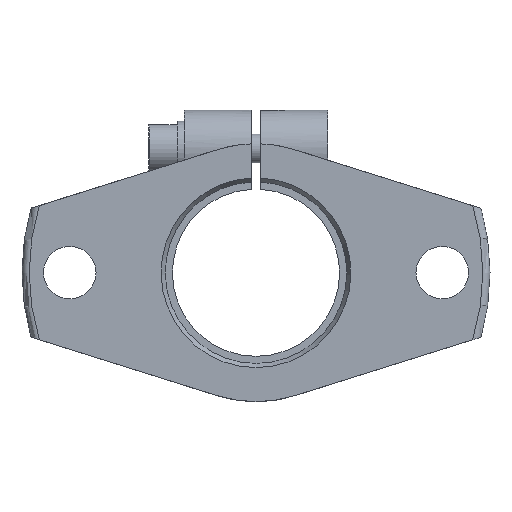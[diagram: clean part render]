
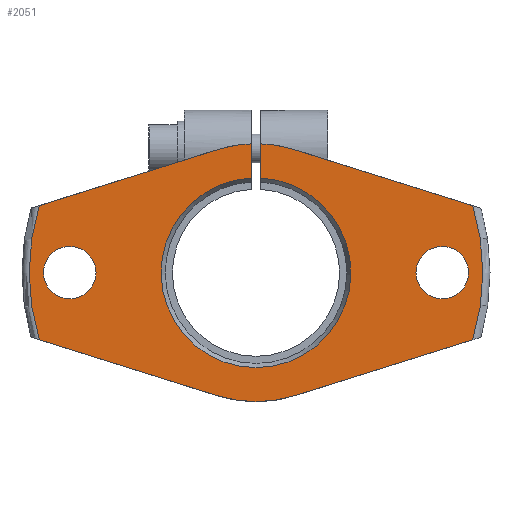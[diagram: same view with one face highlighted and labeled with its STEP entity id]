
A CAD part, left-side view. The second image highlights one B-rep face of the part: STEP entity #2051.
In plain terms, the highlighted planar face has unit normal (-1, 0, 0).
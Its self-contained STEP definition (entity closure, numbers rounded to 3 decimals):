
#481=CARTESIAN_POINT('',(0.0,-45.377,-14.043));
#482=VERTEX_POINT('',#481);
#522=CARTESIAN_POINT('',(0.0,-45.377,14.043));
#523=VERTEX_POINT('',#522);
#549=CARTESIAN_POINT('',(0.0,0.0,0.0));
#550=DIRECTION('',(1.0,0.0,0.0));
#551=DIRECTION('',(0.0,-1.0,0.0));
#552=AXIS2_PLACEMENT_3D('',#549,#550,#551);
#553=CIRCLE('',#552,47.5);
#554=EDGE_CURVE('',#523,#482,#553,.T.);
#634=CARTESIAN_POINT('',(0.0,-8.094,25.758));
#635=VERTEX_POINT('',#634);
#642=CARTESIAN_POINT('',(0.0,-8.094,25.758));
#643=DIRECTION('',(0.0,-0.954,-0.3));
#644=VECTOR('',#643,39.08);
#645=LINE('',#642,#644);
#646=EDGE_CURVE('',#635,#523,#645,.T.);
#681=CARTESIAN_POINT('',(0.0,45.377,14.043));
#682=VERTEX_POINT('',#681);
#722=CARTESIAN_POINT('',(0.0,45.377,-14.043));
#723=VERTEX_POINT('',#722);
#749=CARTESIAN_POINT('',(0.0,0.0,0.0));
#750=DIRECTION('',(1.0,0.0,0.0));
#751=DIRECTION('',(0.0,1.0,0.0));
#752=AXIS2_PLACEMENT_3D('',#749,#750,#751);
#753=CIRCLE('',#752,47.5);
#754=EDGE_CURVE('',#723,#682,#753,.T.);
#797=CARTESIAN_POINT('',(0.0,8.094,25.758));
#798=VERTEX_POINT('',#797);
#799=CARTESIAN_POINT('',(0.0,45.377,14.043));
#800=DIRECTION('',(0.0,-0.954,0.3));
#801=VECTOR('',#800,39.08);
#802=LINE('',#799,#801);
#803=EDGE_CURVE('',#682,#798,#802,.T.);
#1141=CARTESIAN_POINT('',(0.0,-8.094,-25.758));
#1142=VERTEX_POINT('',#1141);
#1149=CARTESIAN_POINT('',(0.0,8.094,-25.758));
#1150=VERTEX_POINT('',#1149);
#1151=CARTESIAN_POINT('',(0.0,0.0,0.0));
#1152=DIRECTION('',(1.0,0.0,0.0));
#1153=DIRECTION('',(0.0,1.0,0.0));
#1154=AXIS2_PLACEMENT_3D('',#1151,#1152,#1153);
#1155=CIRCLE('',#1154,27.0);
#1156=EDGE_CURVE('',#1142,#1150,#1155,.T.);
#1546=CARTESIAN_POINT('',(0.0,1.,26.981));
#1547=VERTEX_POINT('',#1546);
#1554=CARTESIAN_POINT('',(0.0,1.,19.841));
#1555=VERTEX_POINT('',#1554);
#1556=CARTESIAN_POINT('',(0.0,1.,19.841));
#1557=DIRECTION('',(0.0,0.0,1.0));
#1558=VECTOR('',#1557,7.141);
#1559=LINE('',#1556,#1558);
#1560=EDGE_CURVE('',#1555,#1547,#1559,.T.);
#1671=CARTESIAN_POINT('',(0.0,44.5,0.));
#1672=VERTEX_POINT('',#1671);
#1673=CARTESIAN_POINT('',(0.0,39.0,0.));
#1674=DIRECTION('',(1.0,0.0,0.0));
#1675=DIRECTION('',(0.0,1.0,0.0));
#1676=AXIS2_PLACEMENT_3D('',#1673,#1674,#1675);
#1677=CIRCLE('',#1676,5.5);
#1678=EDGE_CURVE('',#1672,#1672,#1677,.T.);
#1699=CARTESIAN_POINT('',(0.0,-33.5,0.));
#1700=VERTEX_POINT('',#1699);
#1701=CARTESIAN_POINT('',(0.0,-39.0,0.));
#1702=DIRECTION('',(1.0,0.0,0.0));
#1703=DIRECTION('',(0.0,1.0,0.0));
#1704=AXIS2_PLACEMENT_3D('',#1701,#1702,#1703);
#1705=CIRCLE('',#1704,5.5);
#1706=EDGE_CURVE('',#1700,#1700,#1705,.T.);
#1803=CARTESIAN_POINT('',(0.0,-1.,19.841));
#1804=VERTEX_POINT('',#1803);
#1805=CARTESIAN_POINT('',(0.0,0.0,0.0));
#1806=DIRECTION('',(-1.0,0.0,0.0));
#1807=DIRECTION('',(0.0,0.0,-1.0));
#1808=AXIS2_PLACEMENT_3D('',#1805,#1806,#1807);
#1809=CIRCLE('',#1808,19.866);
#1810=EDGE_CURVE('',#1555,#1804,#1809,.T.);
#1882=CARTESIAN_POINT('',(0.0,-1.,26.981));
#1883=VERTEX_POINT('',#1882);
#1884=CARTESIAN_POINT('',(0.0,-1.,26.981));
#1885=DIRECTION('',(0.0,0.0,-1.0));
#1886=VECTOR('',#1885,7.141);
#1887=LINE('',#1884,#1886);
#1888=EDGE_CURVE('',#1883,#1804,#1887,.T.);
#1988=CARTESIAN_POINT('',(0.0,0.0,0.0));
#1989=DIRECTION('',(1.0,0.0,0.0));
#1990=DIRECTION('',(0.0,1.0,0.0));
#1991=AXIS2_PLACEMENT_3D('',#1988,#1989,#1990);
#1992=CIRCLE('',#1991,27.0);
#1993=EDGE_CURVE('',#798,#1547,#1992,.T.);
#2004=CARTESIAN_POINT('',(0.0,0.0,0.0));
#2005=DIRECTION('',(1.0,0.0,0.0));
#2006=DIRECTION('',(0.0,1.0,0.0));
#2007=AXIS2_PLACEMENT_3D('',#2004,#2005,#2006);
#2008=CIRCLE('',#2007,27.0);
#2009=EDGE_CURVE('',#1883,#635,#2008,.T.);
#2016=CARTESIAN_POINT('',(0.0,-27.517,0.));
#2017=DIRECTION('',(1.0,0.0,0.0));
#2018=DIRECTION('',(0.0,0.0,-1.0));
#2019=AXIS2_PLACEMENT_3D('',#2016,#2017,#2018);
#2020=PLANE('',#2019);
#2021=ORIENTED_EDGE('',*,*,#554,.F.);
#2022=ORIENTED_EDGE('',*,*,#646,.F.);
#2023=ORIENTED_EDGE('',*,*,#2009,.F.);
#2024=ORIENTED_EDGE('',*,*,#1888,.T.);
#2025=ORIENTED_EDGE('',*,*,#1810,.F.);
#2026=ORIENTED_EDGE('',*,*,#1560,.T.);
#2027=ORIENTED_EDGE('',*,*,#1993,.F.);
#2028=ORIENTED_EDGE('',*,*,#803,.F.);
#2029=ORIENTED_EDGE('',*,*,#754,.F.);
#2030=CARTESIAN_POINT('',(0.0,8.094,-25.758));
#2031=DIRECTION('',(0.0,0.954,0.3));
#2032=VECTOR('',#2031,39.08);
#2033=LINE('',#2030,#2032);
#2034=EDGE_CURVE('',#1150,#723,#2033,.T.);
#2035=ORIENTED_EDGE('',*,*,#2034,.F.);
#2036=ORIENTED_EDGE('',*,*,#1156,.F.);
#2037=CARTESIAN_POINT('',(0.0,-45.377,-14.043));
#2038=DIRECTION('',(0.0,0.954,-0.3));
#2039=VECTOR('',#2038,39.08);
#2040=LINE('',#2037,#2039);
#2041=EDGE_CURVE('',#482,#1142,#2040,.T.);
#2042=ORIENTED_EDGE('',*,*,#2041,.F.);
#2043=EDGE_LOOP('',(#2021,#2022,#2023,#2024,#2025,#2026,#2027,#2028,#2029,#2035,#2036,#2042));
#2044=FACE_OUTER_BOUND('',#2043,.T.);
#2045=ORIENTED_EDGE('',*,*,#1678,.T.);
#2046=EDGE_LOOP('',(#2045));
#2047=FACE_BOUND('',#2046,.T.);
#2048=ORIENTED_EDGE('',*,*,#1706,.T.);
#2049=EDGE_LOOP('',(#2048));
#2050=FACE_BOUND('',#2049,.T.);
#2051=ADVANCED_FACE('',(#2044,#2047,#2050),#2020,.F.);
